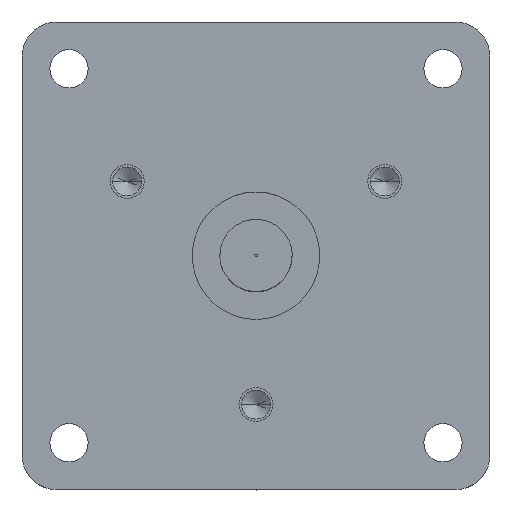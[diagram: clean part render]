
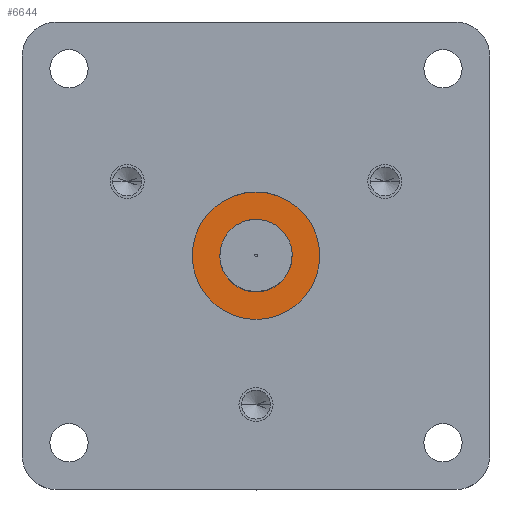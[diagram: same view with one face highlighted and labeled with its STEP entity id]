
A CAD part, top view. The second image highlights one B-rep face of the part: STEP entity #6644.
In plain terms, the highlighted planar face has unit normal (0, 0, 1).
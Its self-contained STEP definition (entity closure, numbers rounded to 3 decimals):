
#272 = DIRECTION ( 'NONE',  ( -1., 0., 0. ) ) ;
#806 = DIRECTION ( 'NONE',  ( 0., 0., 1. ) ) ;
#887 = EDGE_LOOP ( 'NONE', ( #5445, #3660 ) ) ;
#1220 = DIRECTION ( 'NONE',  ( 1., 0., 0. ) ) ;
#1260 = AXIS2_PLACEMENT_3D ( 'NONE', #12163, #10829, #272 ) ;
#1387 = CARTESIAN_POINT ( 'NONE',  ( 8.5, 0., 0. ) ) ;
#1902 = DIRECTION ( 'NONE',  ( 0., 0., 1. ) ) ;
#2000 = CARTESIAN_POINT ( 'NONE',  ( -8.5, 0., 0. ) ) ;
#3173 = CARTESIAN_POINT ( 'NONE',  ( 0., 0., 0. ) ) ;
#3660 = ORIENTED_EDGE ( 'NONE', *, *, #10369, .F. ) ;
#3906 = DIRECTION ( 'NONE',  ( 0., 0., 1. ) ) ;
#4354 = FACE_OUTER_BOUND ( 'NONE', #9770, .T. ) ;
#4451 = EDGE_CURVE ( 'NONE', #10520, #15066, #17001, .T. ) ;
#4610 = DIRECTION ( 'NONE',  ( 1., 0., 0. ) ) ;
#4918 = CIRCLE ( 'NONE', #10953, 15. ) ;
#5218 = CARTESIAN_POINT ( 'NONE',  ( -15., 0., 0. ) ) ;
#5445 = ORIENTED_EDGE ( 'NONE', *, *, #13239, .F. ) ;
#6094 = CARTESIAN_POINT ( 'NONE',  ( 0., 0., 0. ) ) ;
#6418 = FACE_BOUND ( 'NONE', #887, .T. ) ;
#6644 = ADVANCED_FACE ( 'NONE', ( #6418, #4354 ), #8085, .F. ) ;
#6702 = AXIS2_PLACEMENT_3D ( 'NONE', #7235, #15881, #1220 ) ;
#7235 = CARTESIAN_POINT ( 'NONE',  ( 0., 0., 0. ) ) ;
#7615 = ORIENTED_EDGE ( 'NONE', *, *, #4451, .T. ) ;
#7691 = VERTEX_POINT ( 'NONE', #1387 ) ;
#8085 = PLANE ( 'NONE',  #1260 ) ;
#8154 = CARTESIAN_POINT ( 'NONE',  ( 15., 0., 0. ) ) ;
#9135 = DIRECTION ( 'NONE',  ( 1., 0., 0. ) ) ;
#9455 = EDGE_CURVE ( 'NONE', #15066, #10520, #4918, .T. ) ;
#9525 = CIRCLE ( 'NONE', #15584, 8.5 ) ;
#9770 = EDGE_LOOP ( 'NONE', ( #13027, #7615 ) ) ;
#10334 = CARTESIAN_POINT ( 'NONE',  ( 0., 0., 0. ) ) ;
#10369 = EDGE_CURVE ( 'NONE', #16879, #7691, #11227, .T. ) ;
#10520 = VERTEX_POINT ( 'NONE', #5218 ) ;
#10829 = DIRECTION ( 'NONE',  ( 0., 0., -1. ) ) ;
#10953 = AXIS2_PLACEMENT_3D ( 'NONE', #6094, #806, #15267 ) ;
#11227 = CIRCLE ( 'NONE', #6702, 8.5 ) ;
#12163 = CARTESIAN_POINT ( 'NONE',  ( 0., 8.5, 0. ) ) ;
#13027 = ORIENTED_EDGE ( 'NONE', *, *, #9455, .T. ) ;
#13239 = EDGE_CURVE ( 'NONE', #7691, #16879, #9525, .T. ) ;
#14472 = AXIS2_PLACEMENT_3D ( 'NONE', #3173, #1902, #4610 ) ;
#15066 = VERTEX_POINT ( 'NONE', #8154 ) ;
#15267 = DIRECTION ( 'NONE',  ( 1., 0., 0. ) ) ;
#15584 = AXIS2_PLACEMENT_3D ( 'NONE', #10334, #3906, #9135 ) ;
#15881 = DIRECTION ( 'NONE',  ( 0., 0., 1. ) ) ;
#16879 = VERTEX_POINT ( 'NONE', #2000 ) ;
#17001 = CIRCLE ( 'NONE', #14472, 15. ) ;
